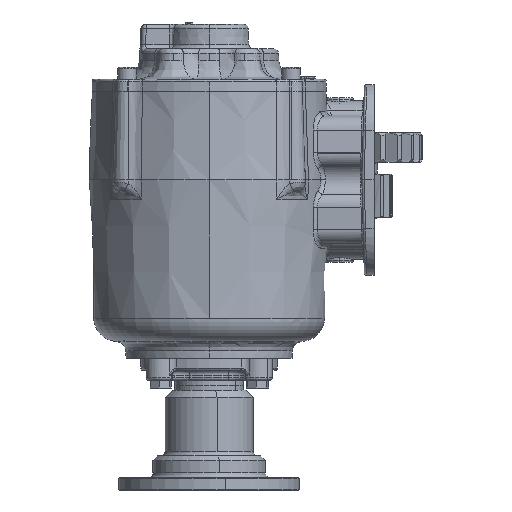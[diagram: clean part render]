
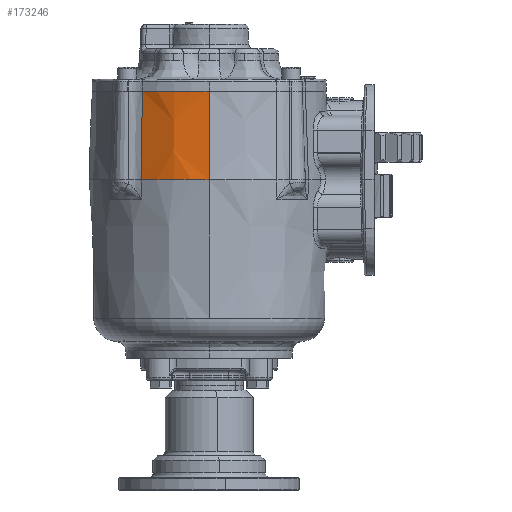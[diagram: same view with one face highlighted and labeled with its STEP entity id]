
A CAD part, left-side view. The second image highlights one B-rep face of the part: STEP entity #173246.
In plain terms, the highlighted conical face has half-angle 2 degrees and reference radius 78.232 mm.
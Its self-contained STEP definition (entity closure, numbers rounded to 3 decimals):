
#5442 = DIRECTION ( 'NONE',  ( -0.468, -0.884, 0. ) ) ;
#13090 = CIRCLE ( 'NONE', #125698, 76.223 ) ;
#18786 = CARTESIAN_POINT ( 'NONE',  ( -31.75, 84.572, 0. ) ) ;
#19484 = AXIS2_PLACEMENT_3D ( 'NONE', #18786, #143625, #199346 ) ;
#25947 = CARTESIAN_POINT ( 'NONE',  ( -94.345, 128.067, 57.518 ) ) ;
#27263 = VERTEX_POINT ( 'NONE', #195881 ) ;
#36689 = DIRECTION ( 'NONE',  ( 0., 0., -1. ) ) ;
#44019 = VERTEX_POINT ( 'NONE', #157685 ) ;
#45224 = CONICAL_SURFACE ( 'NONE', #19484, 78.232, 0.035 ) ;
#45670 = CARTESIAN_POINT ( 'NONE',  ( -31.75, 84.572, 57.518 ) ) ;
#47920 = VERTEX_POINT ( 'NONE', #71566 ) ;
#60800 = DIRECTION ( 'NONE',  ( 0., 0., 1. ) ) ;
#64715 = EDGE_CURVE ( 'NONE', #44019, #155050, #170643, .T. ) ;
#66123 = FACE_OUTER_BOUND ( 'NONE', #97884, .T. ) ;
#71566 = CARTESIAN_POINT ( 'NONE',  ( -94.345, 128.067, 57.518 ) ) ;
#74381 = DIRECTION ( 'NONE',  ( -0.035, 0., -0.999 ) ) ;
#80857 = CARTESIAN_POINT ( 'NONE',  ( -96.365, 128.676, 0. ) ) ;
#82033 = CARTESIAN_POINT ( 'NONE',  ( -31.75, 84.572, 0. ) ) ;
#83880 = AXIS2_PLACEMENT_3D ( 'NONE', #82033, #36689, #5442 ) ;
#89502 = LINE ( 'NONE', #150881, #145798 ) ;
#93919 = B_SPLINE_CURVE_WITH_KNOTS ( 'NONE', 3,
 ( #25947, #116673, #147827, #132734 ),
 .UNSPECIFIED., .F., .F.,
 ( 4, 4 ),
 ( 0., 1. ),
 .UNSPECIFIED. ) ;
#97884 = EDGE_LOOP ( 'NONE', ( #144405, #113457, #123818, #102644 ) ) ;
#102644 = ORIENTED_EDGE ( 'NONE', *, *, #64715, .F. ) ;
#105245 = EDGE_CURVE ( 'NONE', #27263, #44019, #89502, .T. ) ;
#113457 = ORIENTED_EDGE ( 'NONE', *, *, #191419, .F. ) ;
#116673 = CARTESIAN_POINT ( 'NONE',  ( -95.002, 128.262, 38.888 ) ) ;
#123236 = DIRECTION ( 'NONE',  ( -1., 0., 0. ) ) ;
#123818 = ORIENTED_EDGE ( 'NONE', *, *, #164759, .T. ) ;
#125698 = AXIS2_PLACEMENT_3D ( 'NONE', #45670, #60800, #123236 ) ;
#132734 = CARTESIAN_POINT ( 'NONE',  ( -96.365, 128.676, 0. ) ) ;
#143625 = DIRECTION ( 'NONE',  ( 0., 0., -1. ) ) ;
#144405 = ORIENTED_EDGE ( 'NONE', *, *, #105245, .F. ) ;
#145798 = VECTOR ( 'NONE', #74381, 1000. ) ;
#147827 = CARTESIAN_POINT ( 'NONE',  ( -95.676, 128.464, 19.716 ) ) ;
#150881 = CARTESIAN_POINT ( 'NONE',  ( -109.982, 84.572, 0. ) ) ;
#155050 = VERTEX_POINT ( 'NONE', #80857 ) ;
#157685 = CARTESIAN_POINT ( 'NONE',  ( -109.982, 84.572, 0. ) ) ;
#164759 = EDGE_CURVE ( 'NONE', #47920, #155050, #93919, .T. ) ;
#170643 = CIRCLE ( 'NONE', #83880, 78.232 ) ;
#173246 = ADVANCED_FACE ( 'NONE', ( #66123 ), #45224, .T. ) ;
#191419 = EDGE_CURVE ( 'NONE', #47920, #27263, #13090, .T. ) ;
#195881 = CARTESIAN_POINT ( 'NONE',  ( -107.973, 84.572, 57.518 ) ) ;
#199346 = DIRECTION ( 'NONE',  ( -1., 0., 0. ) ) ;
